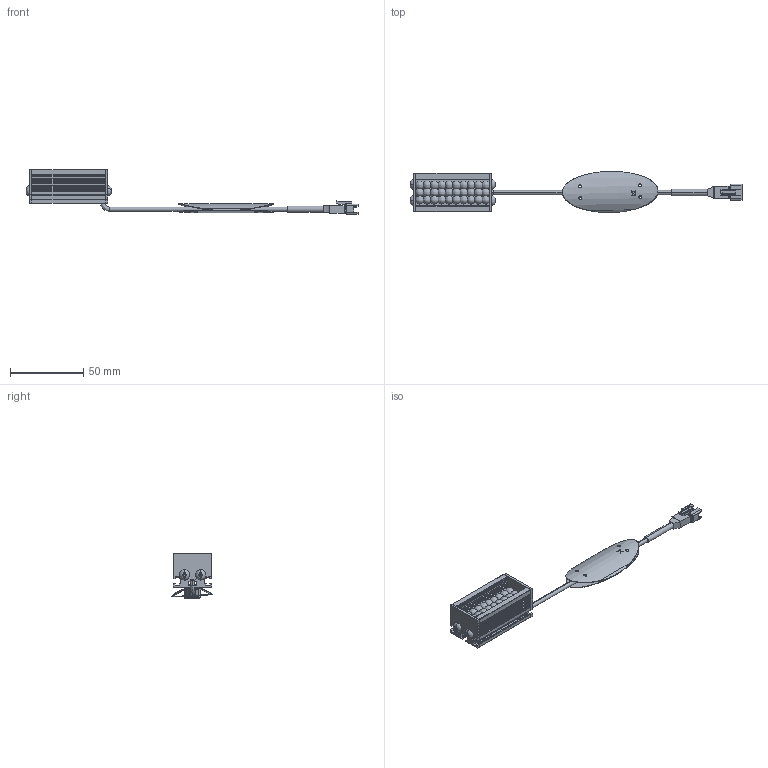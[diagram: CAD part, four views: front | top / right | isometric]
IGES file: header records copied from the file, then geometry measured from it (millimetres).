
Start section: 3D InterOp IGES (v. 2019 1.0.2), Spatial Corp. Copyright (c) 1999-2017.
Global section: file name: VBA-5015_DRAWING_3D.iges; native system: Spatial Corp.; preprocessor: 3D InterOp ACIS/IGES; author: Noname; organization: Noname; date: 20230914.095000; units: millimetre
Bounding box: 226 x 27.96 x 30.5 mm (x, y, z)
Surface area: 26524.3 mm2 (no closed solid volume)
Topology: 0 solids, 0 shells, 806 faces, 4594 edges, 4594 vertices
Faces by surface type: extrusion 484, revolution 316, bspline 6
